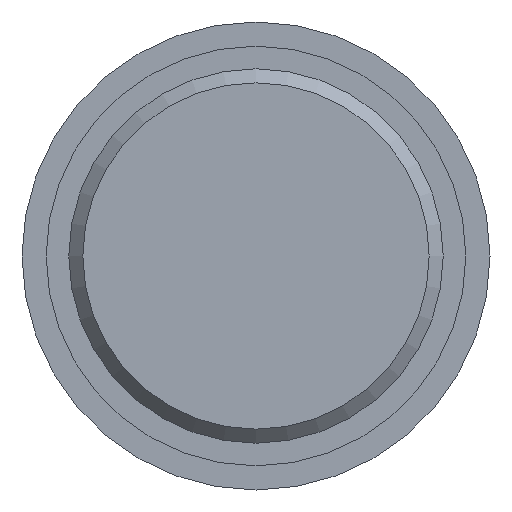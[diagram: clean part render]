
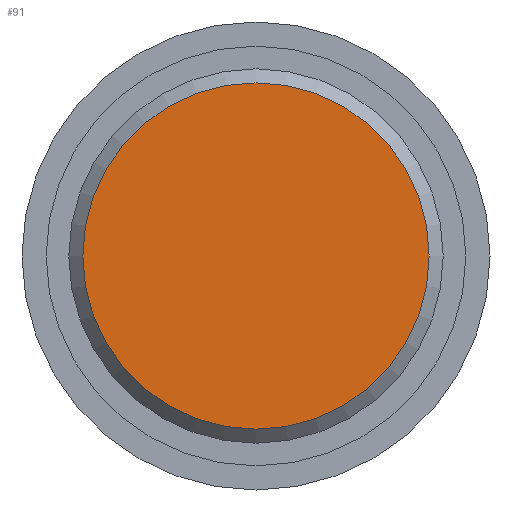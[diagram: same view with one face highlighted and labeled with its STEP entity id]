
A CAD part, front view. The second image highlights one B-rep face of the part: STEP entity #91.
In plain terms, the highlighted planar face has unit normal (0, -1, 0).
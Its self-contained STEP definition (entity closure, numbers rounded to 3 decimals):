
#91 = ADVANCED_FACE( '', ( #138 ), #139, .F. );
#138 = FACE_OUTER_BOUND( '', #193, .T. );
#139 = PLANE( '', #194 );
#193 = EDGE_LOOP( '', ( #308 ) );
#194 = AXIS2_PLACEMENT_3D( '', #309, #310, #311 );
#308 = ORIENTED_EDGE( '', *, *, #359, .T. );
#309 = CARTESIAN_POINT( '', ( 11.1, 0., 0. ) );
#310 = DIRECTION( '', ( 0., 1., 0. ) );
#311 = DIRECTION( '', ( 0., 0., 1. ) );
#359 = EDGE_CURVE( '', #411, #411, #412, .T. );
#411 = VERTEX_POINT( '', #485 );
#412 = CIRCLE( '', #486, 11.1 );
#485 = CARTESIAN_POINT( '', ( 0., 0., -11.1 ) );
#486 = AXIS2_PLACEMENT_3D( '', #538, #539, #540 );
#538 = CARTESIAN_POINT( '', ( 0., 0., 0. ) );
#539 = DIRECTION( '', ( 0., -1., 0. ) );
#540 = DIRECTION( '', ( 0., 0., -1. ) );
